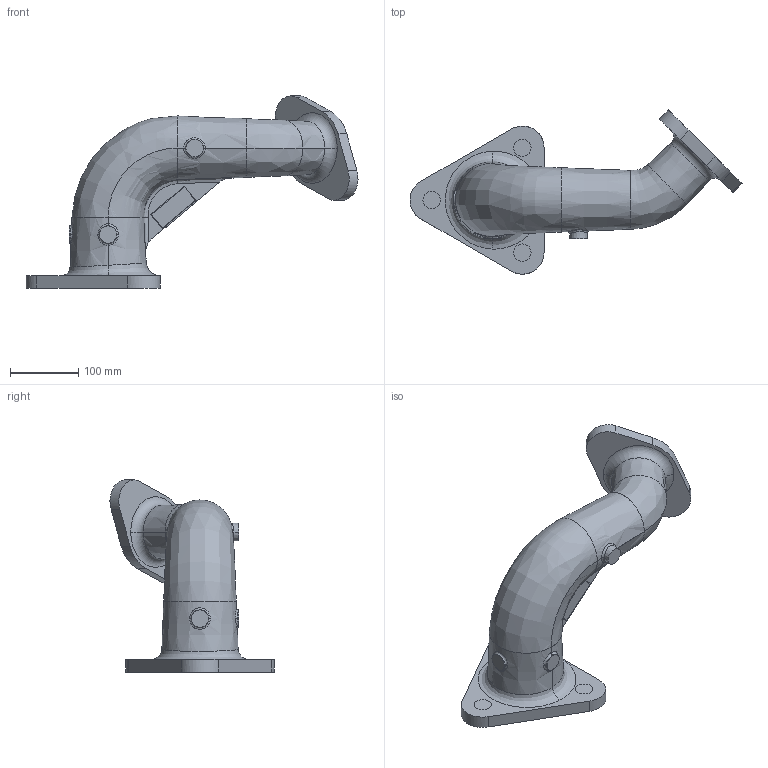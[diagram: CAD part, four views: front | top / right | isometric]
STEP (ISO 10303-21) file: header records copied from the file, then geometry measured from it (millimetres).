
FILE_DESCRIPTION(('CATIA V5 STEP Exchange','CAx-IF Rec.Pracs.--- Model Styling and Organization---1.2---2011-12-15','CAx-IF Rec.Pracs.---Representation and Presentation of Product Manufacturing Information (PMI)---3.3a---2012-01-01','CAx-IF Rec.Pracs.--- Geometric and Assembly Validation Properties ---3.1---2011-10-19','CAx-IF Rec.Pracs.---3D Tessellated Data Validation Properties---0.3---2012-01-09'),'2;1');
FILE_NAME('H:\test\CASTING SPECIMEN ADPAG 1.1-R24.stp','2020-04-01T19:37:11+00:00',('Pratt & Whitney Canada'),('none'),'CATIA Version 5-6 Release 2014 SP5 HF1','CATIA V5 STEP AP242','none');
FILE_SCHEMA(('AP242_MANAGED_MODEL_BASED_3D_ENGINEERING_MIM_LF { 1 0 10303 442 20130219 1 4 }'));
Length unit declared in the file: inch
Products named in the file (1): PART3
Bounding box: 487.59 x 240.92 x 282.39 mm (x, y, z)
Volume: 1511966.9 mm3; surface area: 511765.6 mm2
Topology: 1 solids, 6 shells, 100 faces, 359 edges, 317 vertices
Faces by surface type: bspline 53, plane 22, cylinder 14, cone 5, extrusion 4, torus 2
Entity records: 13257 total; most frequent: CARTESIAN_POINT 9986, ORIENTED_EDGE 454, DIRECTION 295, EDGE_CURVE 226, B_SPLINE_CURVE_WITH_KNOTS 149, AXIS2_PLACEMENT_3D 140, VERTEX_POINT 136, PROPERTY_DEFINITION 134
